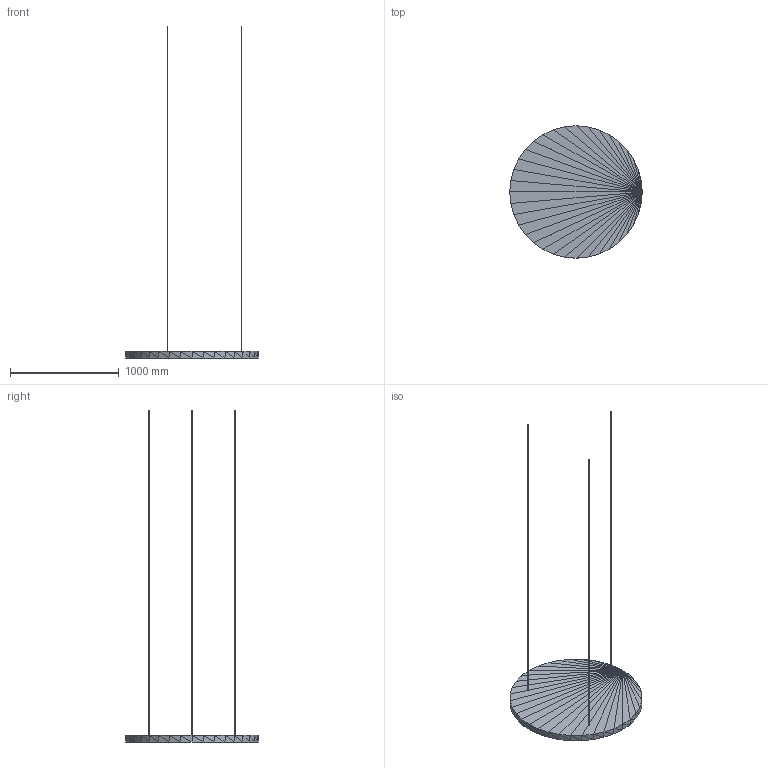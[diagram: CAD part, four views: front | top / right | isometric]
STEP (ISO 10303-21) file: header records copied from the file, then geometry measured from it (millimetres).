
FILE_DESCRIPTION(('ISINAC STEP AP214'),'2;1');
FILE_NAME('ISINAC_CIR.1220_60mm_COLGADO','2026-05-03T10:49:20',('ISINAC'),('www.isinac.com'),'ISINAC BIM Generator 1.0','','');
FILE_SCHEMA(('AUTOMOTIVE_DESIGN'));
Length unit declared in the file: millimetre
Products named in the file (1): ISINAC_CIR.1220_60mm_COLGADO
Bounding box: 1220 x 1220 x 3060 mm (x, y, z)
Surface area: 2636829.6 mm2 (no closed solid volume)
Topology: 0 solids, 200 shells, 200 faces, 600 edges, 600 vertices
Faces by surface type: plane 200
Entity records: 2213 total; most frequent: CARTESIAN_POINT 800, DIRECTION 400, POLY_LOOP 200, FACE_OUTER_BOUND 200, AXIS2_PLACEMENT_3D 200, PLANE 200, FACE_SURFACE 200, CLOSED_SHELL 1
